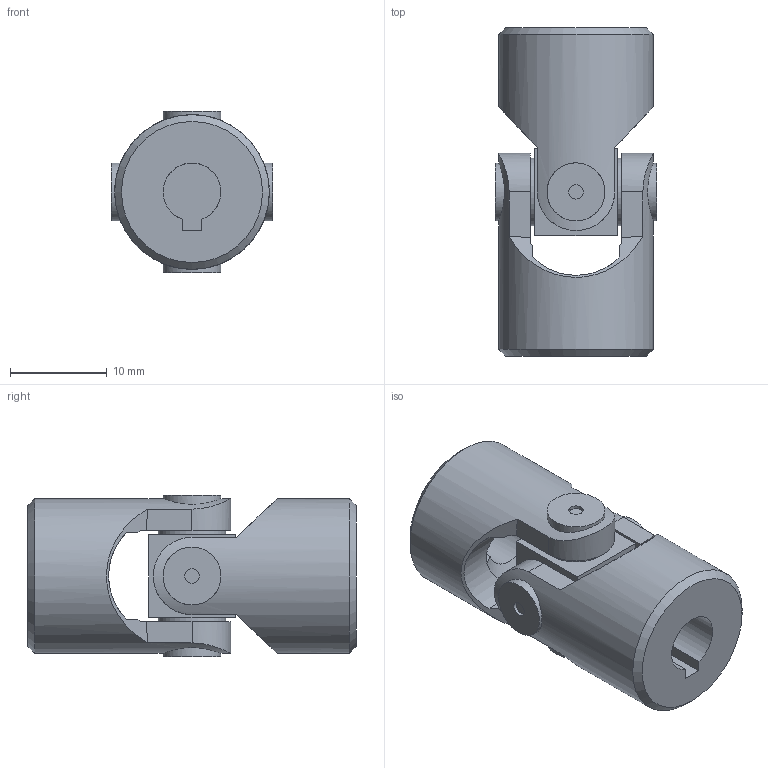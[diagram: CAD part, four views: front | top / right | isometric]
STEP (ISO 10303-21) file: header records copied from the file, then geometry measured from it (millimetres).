
FILE_DESCRIPTION(/* description */ ('EXTENSIBLE TRANSIMISSIONS Series G DIN 808 -2-'),/* implementation_level */ '2;1');
FILE_NAME(/* name */ '\\SRV2016\societa\Stefano\Disegni 3D\Dis. Clienti\0000Catalogo 3D\01Singoli G-GB\SG0S062C.stp',/* time_stamp */ '2021-11-08T13:01:20+01:00',/* author */ ('acquisti'),/* organization */ ('MARIOFERRI'),/* preprocessor_version */ 'ST-DEVELOPER v15.6',/* originating_system */ 'Autodesk Inventor 2015',/* authorisation */ '');
FILE_SCHEMA (('AUTOMOTIVE_DESIGN { 1 0 10303 214 3 1 1 }'));
Length unit declared in the file: millimetre
Products named in the file (3): 01-02G SFE; 01G MOC; Assieme1
Assembly tree (3 placements, depth 2):
  Assieme1
    01-02G SFE
    01G MOC  x2
Bounding box: 16.7 x 34 x 16.7 mm (x, y, z)
Volume: 4874.6 mm3; surface area: 3373.7 mm2
Topology: 3 solids, 3 shells, 78 faces, 194 edges, 132 vertices
Faces by surface type: plane 42, cylinder 22, cone 12, torus 2
Full cylindrical faces by diameter (mm): 1.5 x4, 6 x4, 7 x4, 8.5 x2, 16 x2
Entity records: 1464 total; most frequent: CARTESIAN_POINT 447, DIRECTION 197, ORIENTED_EDGE 180, EDGE_CURVE 90, AXIS2_PLACEMENT_3D 83, EDGE_LOOP 68, VERTEX_POINT 68, FACE_OUTER_BOUND 46
